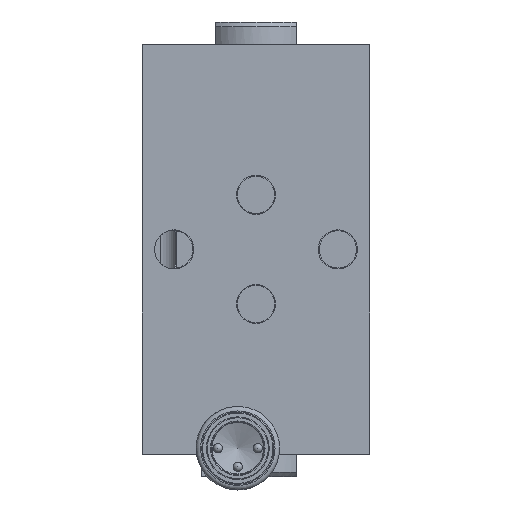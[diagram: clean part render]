
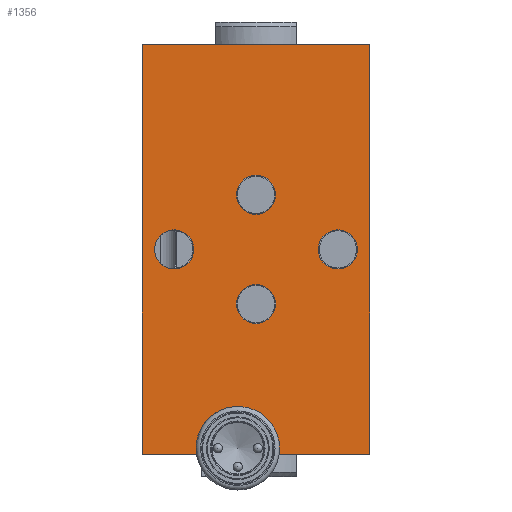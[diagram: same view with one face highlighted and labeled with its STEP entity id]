
A CAD part, front view. The second image highlights one B-rep face of the part: STEP entity #1356.
In plain terms, the highlighted planar face has unit normal (0, -1, 0).
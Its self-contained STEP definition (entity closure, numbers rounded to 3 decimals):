
#1356=ADVANCED_FACE('',(#2780,#2781,#2782,#2783,#2784),#2785,.T.);
#2780=FACE_BOUND('',#4271,.T.);
#2781=FACE_BOUND('',#4272,.T.);
#2782=FACE_BOUND('',#4273,.T.);
#2783=FACE_BOUND('',#4274,.T.);
#2784=FACE_OUTER_BOUND('',#4275,.T.);
#2785=PLANE('',#4276);
#4271=EDGE_LOOP('',(#7644));
#4272=EDGE_LOOP('',(#7645));
#4273=EDGE_LOOP('',(#7646));
#4274=EDGE_LOOP('',(#7647));
#4275=EDGE_LOOP('',(#7648,#7649,#7650,#7651));
#4276=AXIS2_PLACEMENT_3D('',#7652,#7653,#7654);
#7644=ORIENTED_EDGE('',*,*,#9828,.F.);
#7645=ORIENTED_EDGE('',*,*,#9193,.F.);
#7646=ORIENTED_EDGE('',*,*,#9829,.F.);
#7647=ORIENTED_EDGE('',*,*,#9830,.F.);
#7648=ORIENTED_EDGE('',*,*,#9385,.T.);
#7649=ORIENTED_EDGE('',*,*,#9304,.F.);
#7650=ORIENTED_EDGE('',*,*,#9539,.F.);
#7651=ORIENTED_EDGE('',*,*,#9831,.T.);
#7652=CARTESIAN_POINT('',(-12.5,0.0,-22.5));
#7653=DIRECTION('',(0.0,-1.0,0.0));
#7654=DIRECTION('',(0.0,0.0,-1.0));
#9193=EDGE_CURVE('',#11023,#11023,#11024,.T.);
#9304=EDGE_CURVE('',#11220,#11222,#11223,.T.);
#9385=EDGE_CURVE('',#11361,#11222,#11362,.T.);
#9539=EDGE_CURVE('',#11614,#11220,#11616,.T.);
#9828=EDGE_CURVE('',#12014,#12014,#12015,.T.);
#9829=EDGE_CURVE('',#12016,#12016,#12017,.T.);
#9830=EDGE_CURVE('',#12018,#12018,#12019,.T.);
#9831=EDGE_CURVE('',#11614,#11361,#12020,.T.);
#11023=VERTEX_POINT('',#13810);
#11024=CIRCLE('',#13811,2.15);
#11220=VERTEX_POINT('',#14100);
#11222=VERTEX_POINT('',#14103);
#11223=LINE('',#14104,#14105);
#11361=VERTEX_POINT('',#14317);
#11362=LINE('',#14318,#14319);
#11614=VERTEX_POINT('',#14625);
#11616=LINE('',#14628,#14629);
#12014=VERTEX_POINT('',#15240);
#12015=CIRCLE('',#15241,2.15);
#12016=VERTEX_POINT('',#15242);
#12017=CIRCLE('',#15243,2.15);
#12018=VERTEX_POINT('',#15244);
#12019=CIRCLE('',#15245,2.15);
#12020=LINE('',#15246,#15247);
#13810=CARTESIAN_POINT('',(-6.85,0.0,0.0));
#13811=AXIS2_PLACEMENT_3D('',#16192,#16193,#16194);
#14100=CARTESIAN_POINT('',(-12.5,0.0,22.5));
#14103=CARTESIAN_POINT('',(12.5,0.0,22.5));
#14104=CARTESIAN_POINT('',(-12.5,0.0,22.5));
#14105=VECTOR('',#16353,1.0);
#14317=CARTESIAN_POINT('',(12.5,0.0,-22.5));
#14318=CARTESIAN_POINT('',(12.5,0.0,-22.5));
#14319=VECTOR('',#16455,1.0);
#14625=CARTESIAN_POINT('',(-12.5,0.0,-22.5));
#14628=CARTESIAN_POINT('',(-12.5,0.0,-22.5));
#14629=VECTOR('',#16718,1.0);
#15240=CARTESIAN_POINT('',(11.15,0.0,0.0));
#15241=AXIS2_PLACEMENT_3D('',#17136,#17137,#17138);
#15242=CARTESIAN_POINT('',(2.15,0.0,6.0));
#15243=AXIS2_PLACEMENT_3D('',#17139,#17140,#17141);
#15244=CARTESIAN_POINT('',(2.15,0.0,-6.0));
#15245=AXIS2_PLACEMENT_3D('',#17142,#17143,#17144);
#15246=CARTESIAN_POINT('',(-12.5,0.0,-22.5));
#15247=VECTOR('',#17145,1.0);
#16192=CARTESIAN_POINT('',(-9.0,0.0,0.0));
#16193=DIRECTION('',(0.0,-1.0,0.0));
#16194=DIRECTION('',(1.0,0.0,0.0));
#16353=DIRECTION('',(1.0,0.0,0.0));
#16455=DIRECTION('',(0.0,0.0,1.0));
#16718=DIRECTION('',(0.0,0.0,1.0));
#17136=CARTESIAN_POINT('',(9.0,0.0,0.0));
#17137=DIRECTION('',(0.0,-1.0,0.0));
#17138=DIRECTION('',(1.0,0.0,0.0));
#17139=CARTESIAN_POINT('',(0.0,0.0,6.0));
#17140=DIRECTION('',(0.0,-1.0,0.0));
#17141=DIRECTION('',(1.0,0.0,0.0));
#17142=CARTESIAN_POINT('',(0.0,0.0,-6.0));
#17143=DIRECTION('',(0.0,-1.0,0.0));
#17144=DIRECTION('',(1.0,0.0,0.0));
#17145=DIRECTION('',(1.0,0.0,0.0));
